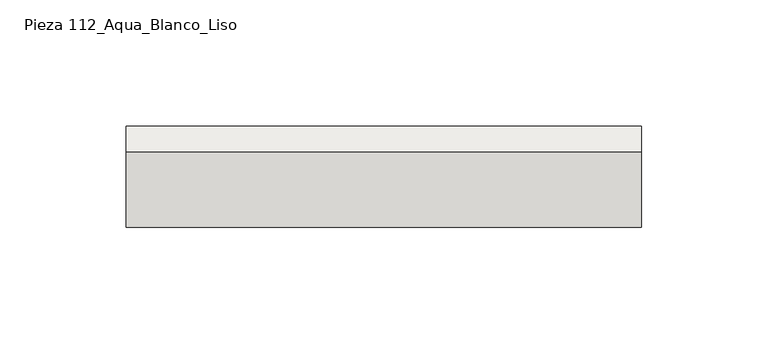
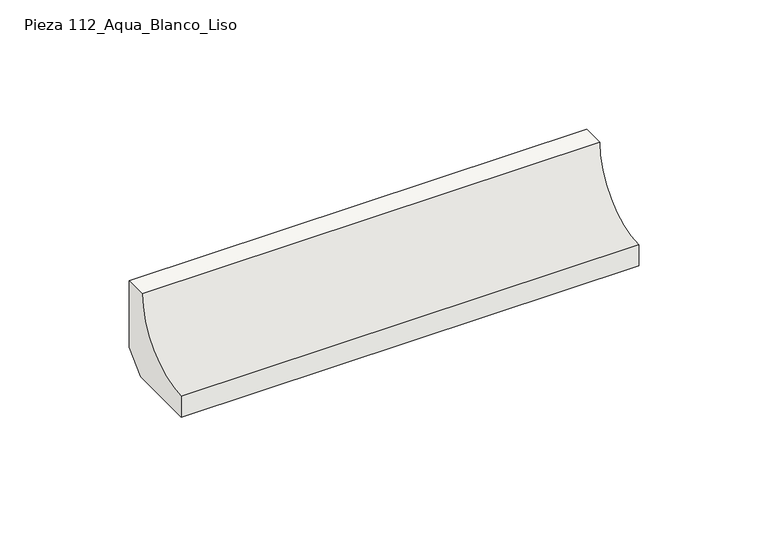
"""IFC4 building model written with IfcOpenShell, lengths in millimetres: slab geometry, ROSA GRES_112 : Pieza 112_Aqua_Blanco_Liso."""

from ifc_helpers import new_model, si_unit, point, frame, frame_2d, origin, place, context, project, spatial, polyline, circle_curve, trimmed, segment, composite_curve, outline, extrude, source, transform, mapped, element, save


def pieza_112_aqua_blanco_liso_548af0f7(model_context):
    return source(origin(), model_context, "Body", "SweptSolid", [
        extrude(outline(composite_curve([segment(polyline([(9.9734114, 8.7114978), (1.2619137, 0.0), (-30.0265886, 0.0), (-30.0265886, 9.9734114)]), True, "CONTINUOUS"), segment(trimmed(circle_curve(frame_2d((-30.0221432, 39.9955547)), 30.0221435), [point((-30.0265886, 9.9734114))], [point((0.0, 40.0))], True, "CARTESIAN"), True, "CONTINUOUS"), segment(polyline([(0.0, 40.0), (9.9734114, 40.0), (9.9734114, 8.7114978)]), True, "CONTINUOUS")], self_intersect=False)), frame((0.0, 0.0, 0.0), z_axis=(1.0, 0.0, 0.0), x_axis=(0.0, 1.0, 0.0)), (0.0, 0.0, 1.0), 203.8436199),
    ])


if __name__ == "__main__":
    model = new_model("IFC4")
    model_context = context("Model", 3, world=origin())
    ifc_project = project(units=[si_unit("LENGTHUNIT", "METRE", prefix="MILLI")], contexts=[model_context])
    site = spatial("IfcSite", under=ifc_project)
    building = spatial("IfcBuilding", under=site)
    placement = place(None, origin())
    pieza_112_aqua_blanco_liso_shape = pieza_112_aqua_blanco_liso_548af0f7(model_context)
    element("IfcSlab", 1, ObjectType="ROSA GRES_112 : Pieza 112_Aqua_Blanco_Liso", at=placement, inside=building, context=model_context, shape_type="MappedRepresentation", body=[
        mapped(pieza_112_aqua_blanco_liso_shape, transform((0.0, 0.0, 0.0), x_axis=(1.0, 0.0, 0.0), y_axis=(0.0, 1.0, 0.0), z_axis=(0.0, 0.0, 1.0))),
    ])
    save(model, "model.ifc")
